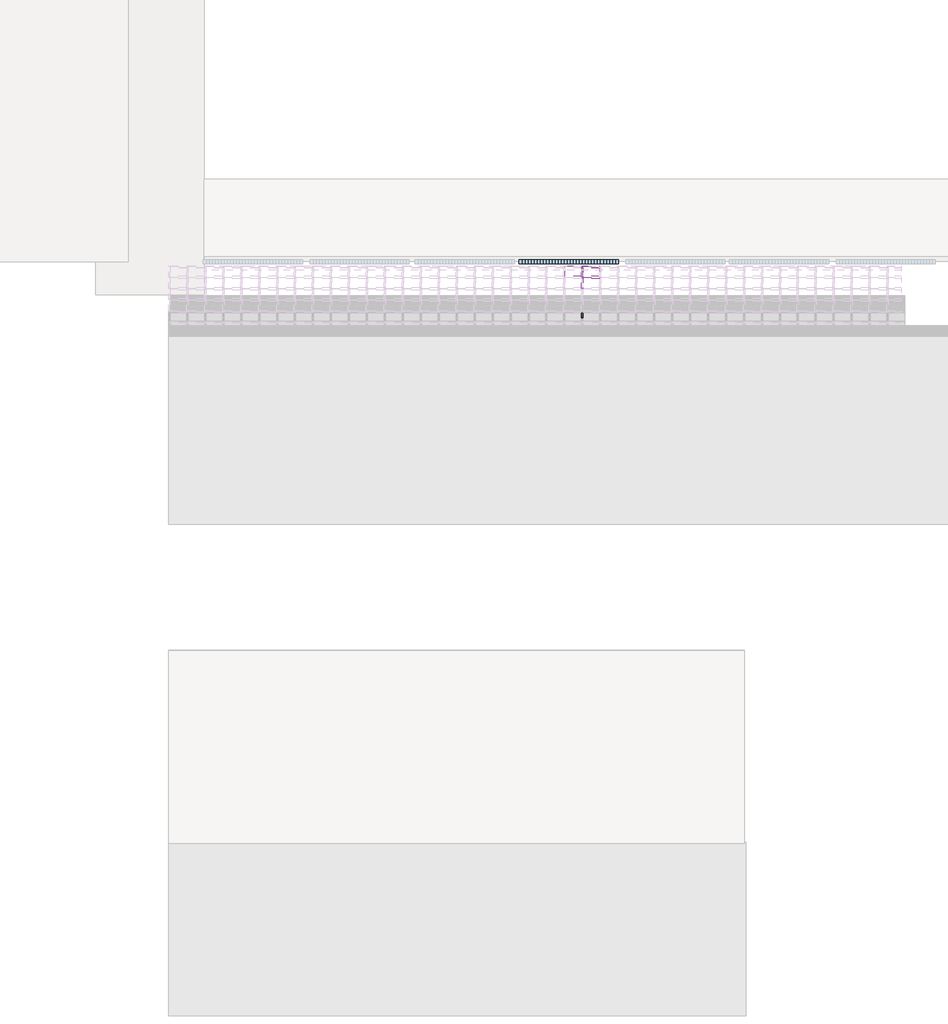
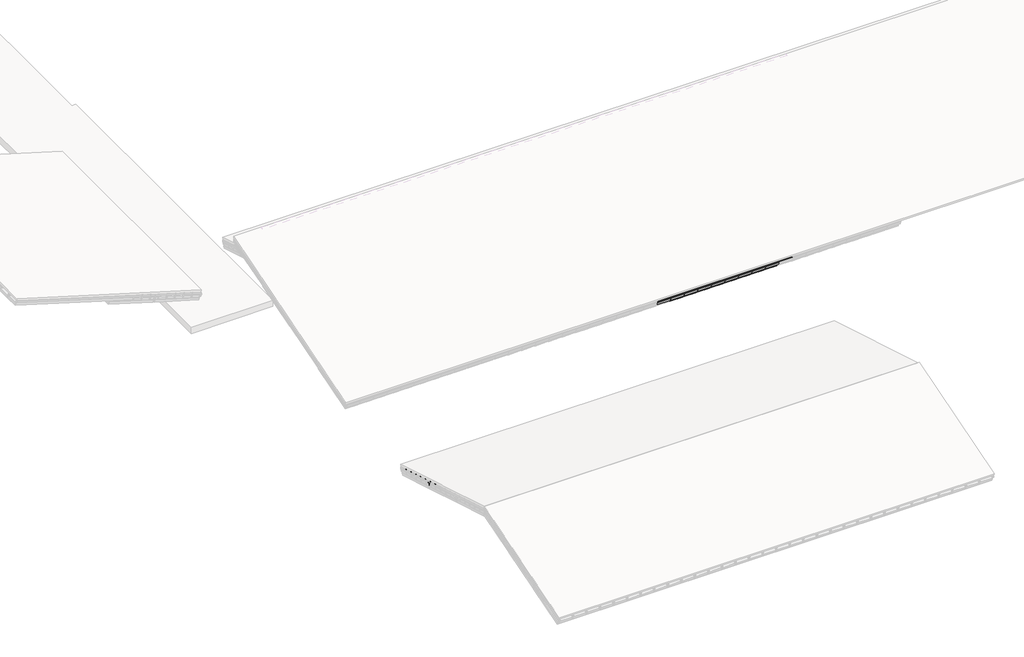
# One storey, part 23 of 57: 71 members, 48 plates, 1 window.
"""IFC4 building model written with IfcOpenShell, lengths in millimetres."""

from ifc_helpers import new_model, si_unit, origin, place, context, project, spatial, transform, mapped, element, save
from components import rectangular_mullion_4c4137b9, rectangular_mullion_59984080, rectangular_mullion_e3e5c75d, rectangular_mullion_883ae41b, rectangular_mullion_3ac3718c, rectangular_mullion_b07fcf9a, rectangular_mullion_e60b9168, rectangular_mullion_caibro_df98490b, rectangular_mullion_caibro_e4384bba, rectangular_mullion_caibro_0993a3cf, rectangular_mullion_caibro_650698a1, rectangular_mullion_caibro_3a75e286, empty_system_panel_vazio_178faf58, empty_system_panel_vazio_2c78850d, empty_system_panel_vazio_6414fa12, window_60306791, window_6c828501, window_02d14e1e

model = new_model("IFC4")

# Units and contexts
model_context = context("Model", 3, world=origin())
ifc_project = project(units=[si_unit("LENGTHUNIT", "METRE", prefix="MILLI")], contexts=[model_context])

# Site, building, storey
site = spatial("IfcSite", under=ifc_project)
building = spatial("IfcBuilding", under=site)
storey = spatial("IfcBuildingStorey", under=building, Name="Nível 2", Elevation=4100.0)

# Members
placement = place(None, origin())
rectangular_mullion_shape = rectangular_mullion_4c4137b9(model_context)
element("IfcMember", 1, ObjectType="Rectangular Mullion : Ripa", at=placement, inside=storey, context=model_context, shape_type="MappedRepresentation", body=[
    mapped(rectangular_mullion_shape, transform((15483.9400499, 15566.1284427, 5819.8877114), x_axis=(0.0, 0.9578262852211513, 0.2873478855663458), y_axis=(0.0, 0.2873478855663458, -0.9578262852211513), z_axis=(-1.0, 0.0, 0.0))),
])
rectangular_mullion_2_shape = rectangular_mullion_59984080(model_context)
element("IfcMember", 2, ObjectType="Rectangular Mullion : Ripa", at=placement, inside=storey, context=model_context, shape_type="MappedRepresentation", body=[
    mapped(rectangular_mullion_2_shape, transform((16105.9948064, 7422.2287521, 3376.7178042), x_axis=(0.0, 0.9578262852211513, 0.2873478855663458), y_axis=(0.0, 0.2873478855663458, -0.9578262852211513), z_axis=(-1.0, 0.0, 0.0))),
])
element("IfcMember", 3, ObjectType="Rectangular Mullion : Ripa", at=placement, inside=storey, context=model_context, shape_type="MappedRepresentation", body=[
    mapped(rectangular_mullion_2_shape, transform((16703.0495628, 7422.2287521, 3376.7178042), x_axis=(0.0, 0.9578262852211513, 0.2873478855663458), y_axis=(0.0, 0.2873478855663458, -0.9578262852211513), z_axis=(-1.0, 0.0, 0.0))),
])
element("IfcMember", 4, ObjectType="Rectangular Mullion : Ripa", at=placement, inside=storey, context=model_context, shape_type="MappedRepresentation", body=[
    mapped(rectangular_mullion_2_shape, transform((17300.1043192, 7422.2287521, 3376.7178042), x_axis=(0.0, 0.9578262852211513, 0.2873478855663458), y_axis=(0.0, 0.2873478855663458, -0.9578262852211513), z_axis=(-1.0, 0.0, 0.0))),
])
element("IfcMember", 5, ObjectType="Rectangular Mullion : Ripa", at=placement, inside=storey, context=model_context, shape_type="MappedRepresentation", body=[
    mapped(rectangular_mullion_2_shape, transform((17897.1590756, 7422.2287521, 3376.7178042), x_axis=(0.0, 0.9578262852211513, 0.2873478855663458), y_axis=(0.0, 0.2873478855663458, -0.9578262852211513), z_axis=(-1.0, 0.0, 0.0))),
])
element("IfcMember", 6, ObjectType="Rectangular Mullion : Ripa", at=placement, inside=storey, context=model_context, shape_type="MappedRepresentation", body=[
    mapped(rectangular_mullion_2_shape, transform((18494.2138321, 7422.2287521, 3376.7178042), x_axis=(0.0, 0.9578262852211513, 0.2873478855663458), y_axis=(0.0, 0.2873478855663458, -0.9578262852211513), z_axis=(-1.0, 0.0, 0.0))),
])
element("IfcMember", 7, ObjectType="Rectangular Mullion : Ripa", at=placement, inside=storey, context=model_context, shape_type="MappedRepresentation", body=[
    mapped(rectangular_mullion_2_shape, transform((19091.2685885, 7422.2287521, 3376.7178042), x_axis=(0.0, 0.9578262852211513, 0.2873478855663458), y_axis=(0.0, 0.2873478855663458, -0.9578262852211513), z_axis=(-1.0, 0.0, 0.0))),
])
element("IfcMember", 8, ObjectType="Rectangular Mullion : Ripa", at=placement, inside=storey, context=model_context, shape_type="MappedRepresentation", body=[
    mapped(rectangular_mullion_2_shape, transform((19688.3233449, 7422.2287521, 3376.7178042), x_axis=(0.0, 0.9578262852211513, 0.2873478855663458), y_axis=(0.0, 0.2873478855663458, -0.9578262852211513), z_axis=(-1.0, 0.0, 0.0))),
])
element("IfcMember", 9, ObjectType="Rectangular Mullion : Ripa", at=placement, inside=storey, context=model_context, shape_type="MappedRepresentation", body=[
    mapped(rectangular_mullion_2_shape, transform((20285.3781013, 7422.2287521, 3376.7178042), x_axis=(0.0, 0.9578262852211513, 0.2873478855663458), y_axis=(0.0, 0.2873478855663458, -0.9578262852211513), z_axis=(-1.0, 0.0, 0.0))),
])
element("IfcMember", 10, ObjectType="Rectangular Mullion : Ripa", at=placement, inside=storey, context=model_context, shape_type="MappedRepresentation", body=[
    mapped(rectangular_mullion_2_shape, transform((20882.4328578, 7422.2287521, 3376.7178042), x_axis=(0.0, 0.9578262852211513, 0.2873478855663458), y_axis=(0.0, 0.2873478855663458, -0.9578262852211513), z_axis=(-1.0, 0.0, 0.0))),
])
element("IfcMember", 11, ObjectType="Rectangular Mullion : Ripa", at=placement, inside=storey, context=model_context, shape_type="MappedRepresentation", body=[
    mapped(rectangular_mullion_2_shape, transform((16105.9948064, 7792.4060108, 3487.7709818), x_axis=(0.0, 0.9578262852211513, 0.2873478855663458), y_axis=(0.0, 0.2873478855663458, -0.9578262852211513), z_axis=(-1.0, 0.0, 0.0))),
])
element("IfcMember", 12, ObjectType="Rectangular Mullion : Ripa", at=placement, inside=storey, context=model_context, shape_type="MappedRepresentation", body=[
    mapped(rectangular_mullion_2_shape, transform((16703.0495628, 7792.4060108, 3487.7709818), x_axis=(0.0, 0.9578262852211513, 0.2873478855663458), y_axis=(0.0, 0.2873478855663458, -0.9578262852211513), z_axis=(-1.0, 0.0, 0.0))),
])
element("IfcMember", 13, ObjectType="Rectangular Mullion : Ripa", at=placement, inside=storey, context=model_context, shape_type="MappedRepresentation", body=[
    mapped(rectangular_mullion_2_shape, transform((17300.1043192, 7792.4060108, 3487.7709818), x_axis=(0.0, 0.9578262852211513, 0.2873478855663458), y_axis=(0.0, 0.2873478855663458, -0.9578262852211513), z_axis=(-1.0, 0.0, 0.0))),
])
element("IfcMember", 14, ObjectType="Rectangular Mullion : Ripa", at=placement, inside=storey, context=model_context, shape_type="MappedRepresentation", body=[
    mapped(rectangular_mullion_2_shape, transform((17897.1590756, 7792.4060108, 3487.7709818), x_axis=(0.0, 0.9578262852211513, 0.2873478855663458), y_axis=(0.0, 0.2873478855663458, -0.9578262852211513), z_axis=(-1.0, 0.0, 0.0))),
])
element("IfcMember", 15, ObjectType="Rectangular Mullion : Ripa", at=placement, inside=storey, context=model_context, shape_type="MappedRepresentation", body=[
    mapped(rectangular_mullion_2_shape, transform((18494.2138321, 7792.4060108, 3487.7709818), x_axis=(0.0, 0.9578262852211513, 0.2873478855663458), y_axis=(0.0, 0.2873478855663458, -0.9578262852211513), z_axis=(-1.0, 0.0, 0.0))),
])
element("IfcMember", 16, ObjectType="Rectangular Mullion : Ripa", at=placement, inside=storey, context=model_context, shape_type="MappedRepresentation", body=[
    mapped(rectangular_mullion_2_shape, transform((19091.2685885, 7792.4060108, 3487.7709818), x_axis=(0.0, 0.9578262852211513, 0.2873478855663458), y_axis=(0.0, 0.2873478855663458, -0.9578262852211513), z_axis=(-1.0, 0.0, 0.0))),
])
element("IfcMember", 17, ObjectType="Rectangular Mullion : Ripa", at=placement, inside=storey, context=model_context, shape_type="MappedRepresentation", body=[
    mapped(rectangular_mullion_2_shape, transform((19688.3233449, 7792.4060108, 3487.7709818), x_axis=(0.0, 0.9578262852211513, 0.2873478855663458), y_axis=(0.0, 0.2873478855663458, -0.9578262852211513), z_axis=(-1.0, 0.0, 0.0))),
])
element("IfcMember", 18, ObjectType="Rectangular Mullion : Ripa", at=placement, inside=storey, context=model_context, shape_type="MappedRepresentation", body=[
    mapped(rectangular_mullion_2_shape, transform((20285.3781013, 7792.4060108, 3487.7709818), x_axis=(0.0, 0.9578262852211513, 0.2873478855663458), y_axis=(0.0, 0.2873478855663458, -0.9578262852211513), z_axis=(-1.0, 0.0, 0.0))),
])
element("IfcMember", 19, ObjectType="Rectangular Mullion : Ripa", at=placement, inside=storey, context=model_context, shape_type="MappedRepresentation", body=[
    mapped(rectangular_mullion_2_shape, transform((20882.4328578, 7792.4060108, 3487.7709818), x_axis=(0.0, 0.9578262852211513, 0.2873478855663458), y_axis=(0.0, 0.2873478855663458, -0.9578262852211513), z_axis=(-1.0, 0.0, 0.0))),
])
element("IfcMember", 20, ObjectType="Rectangular Mullion : Ripa", at=placement, inside=storey, context=model_context, shape_type="MappedRepresentation", body=[
    mapped(rectangular_mullion_2_shape, transform((15508.9400499, 15195.9511841, 5708.8345338), x_axis=(0.0, 0.9578262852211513, 0.2873478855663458), y_axis=(0.0, 0.2873478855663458, -0.9578262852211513), z_axis=(-1.0, 0.0, 0.0))),
])
rectangular_mullion_3_shape = rectangular_mullion_e3e5c75d(model_context)
element("IfcMember", 21, ObjectType="Rectangular Mullion : Ripa", at=placement, inside=storey, context=model_context, shape_type="MappedRepresentation", body=[
    mapped(rectangular_mullion_3_shape, transform((16080.9948064, 7004.1601792, 3251.2972323), x_axis=(0.0, -0.9578262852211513, -0.2873478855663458), y_axis=(0.0, 0.2873478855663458, -0.9578262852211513), z_axis=(1.0, 0.0, 0.0))),
])
element("IfcMember", 22, ObjectType="Rectangular Mullion : Ripa", at=placement, inside=storey, context=model_context, shape_type="MappedRepresentation", body=[
    mapped(rectangular_mullion_3_shape, transform((16678.0495628, 7004.1601792, 3251.2972323), x_axis=(0.0, -0.9578262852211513, -0.2873478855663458), y_axis=(0.0, 0.2873478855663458, -0.9578262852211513), z_axis=(1.0, 0.0, 0.0))),
])
element("IfcMember", 23, ObjectType="Rectangular Mullion : Ripa", at=placement, inside=storey, context=model_context, shape_type="MappedRepresentation", body=[
    mapped(rectangular_mullion_3_shape, transform((17275.1043192, 7004.1601792, 3251.2972323), x_axis=(0.0, -0.9578262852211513, -0.2873478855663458), y_axis=(0.0, 0.2873478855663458, -0.9578262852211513), z_axis=(1.0, 0.0, 0.0))),
])
element("IfcMember", 24, ObjectType="Rectangular Mullion : Ripa", at=placement, inside=storey, context=model_context, shape_type="MappedRepresentation", body=[
    mapped(rectangular_mullion_3_shape, transform((17872.1590756, 7004.1601792, 3251.2972323), x_axis=(0.0, -0.9578262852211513, -0.2873478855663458), y_axis=(0.0, 0.2873478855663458, -0.9578262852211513), z_axis=(1.0, 0.0, 0.0))),
])
element("IfcMember", 25, ObjectType="Rectangular Mullion : Ripa", at=placement, inside=storey, context=model_context, shape_type="MappedRepresentation", body=[
    mapped(rectangular_mullion_3_shape, transform((18469.2138321, 7004.1601792, 3251.2972323), x_axis=(0.0, -0.9578262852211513, -0.2873478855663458), y_axis=(0.0, 0.2873478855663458, -0.9578262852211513), z_axis=(1.0, 0.0, 0.0))),
])
element("IfcMember", 26, ObjectType="Rectangular Mullion : Ripa", at=placement, inside=storey, context=model_context, shape_type="MappedRepresentation", body=[
    mapped(rectangular_mullion_3_shape, transform((19066.2685885, 7004.1601792, 3251.2972323), x_axis=(0.0, -0.9578262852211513, -0.2873478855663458), y_axis=(0.0, 0.2873478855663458, -0.9578262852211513), z_axis=(1.0, 0.0, 0.0))),
])
element("IfcMember", 27, ObjectType="Rectangular Mullion : Ripa", at=placement, inside=storey, context=model_context, shape_type="MappedRepresentation", body=[
    mapped(rectangular_mullion_3_shape, transform((19663.3233449, 7004.1601792, 3251.2972323), x_axis=(0.0, -0.9578262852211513, -0.2873478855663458), y_axis=(0.0, 0.2873478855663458, -0.9578262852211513), z_axis=(1.0, 0.0, 0.0))),
])
element("IfcMember", 28, ObjectType="Rectangular Mullion : Ripa", at=placement, inside=storey, context=model_context, shape_type="MappedRepresentation", body=[
    mapped(rectangular_mullion_3_shape, transform((20260.3781013, 7004.1601792, 3251.2972323), x_axis=(0.0, -0.9578262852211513, -0.2873478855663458), y_axis=(0.0, 0.2873478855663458, -0.9578262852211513), z_axis=(1.0, 0.0, 0.0))),
])
element("IfcMember", 29, ObjectType="Rectangular Mullion : Ripa", at=placement, inside=storey, context=model_context, shape_type="MappedRepresentation", body=[
    mapped(rectangular_mullion_3_shape, transform((20857.4328578, 7004.1601792, 3251.2972323), x_axis=(0.0, -0.9578262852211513, -0.2873478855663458), y_axis=(0.0, 0.2873478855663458, -0.9578262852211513), z_axis=(1.0, 0.0, 0.0))),
])
element("IfcMember", 30, ObjectType="Rectangular Mullion : Ripa", at=placement, inside=storey, context=model_context, shape_type="MappedRepresentation", body=[
    mapped(rectangular_mullion_3_shape, transform((21454.4876142, 7004.1601792, 3251.2972323), x_axis=(0.0, -0.9578262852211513, -0.2873478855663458), y_axis=(0.0, 0.2873478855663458, -0.9578262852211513), z_axis=(1.0, 0.0, 0.0))),
])
rectangular_mullion_4_shape = rectangular_mullion_883ae41b(model_context)
element("IfcMember", 31, ObjectType="Rectangular Mullion : Terça", at=placement, inside=storey, context=model_context, shape_type="MappedRepresentation", body=[
    mapped(rectangular_mullion_4_shape, transform((16080.9948064, 7004.1601792, 3188.6553932), x_axis=(0.0, -0.9578262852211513, -0.2873478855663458), y_axis=(0.0, 0.2873478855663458, -0.9578262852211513), z_axis=(1.0, 0.0, 0.0))),
])
element("IfcMember", 32, ObjectType="Rectangular Mullion : Terça", at=placement, inside=storey, context=model_context, shape_type="MappedRepresentation", body=[
    mapped(rectangular_mullion_4_shape, transform((16678.0495628, 7004.1601792, 3188.6553932), x_axis=(0.0, -0.9578262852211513, -0.2873478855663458), y_axis=(0.0, 0.2873478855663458, -0.9578262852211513), z_axis=(1.0, 0.0, 0.0))),
])
element("IfcMember", 33, ObjectType="Rectangular Mullion : Terça", at=placement, inside=storey, context=model_context, shape_type="MappedRepresentation", body=[
    mapped(rectangular_mullion_4_shape, transform((17275.1043192, 7004.1601792, 3188.6553932), x_axis=(0.0, -0.9578262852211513, -0.2873478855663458), y_axis=(0.0, 0.2873478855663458, -0.9578262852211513), z_axis=(1.0, 0.0, 0.0))),
])
element("IfcMember", 34, ObjectType="Rectangular Mullion : Terça", at=placement, inside=storey, context=model_context, shape_type="MappedRepresentation", body=[
    mapped(rectangular_mullion_4_shape, transform((17872.1590756, 7004.1601792, 3188.6553932), x_axis=(0.0, -0.9578262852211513, -0.2873478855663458), y_axis=(0.0, 0.2873478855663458, -0.9578262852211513), z_axis=(1.0, 0.0, 0.0))),
])
element("IfcMember", 35, ObjectType="Rectangular Mullion : Terça", at=placement, inside=storey, context=model_context, shape_type="MappedRepresentation", body=[
    mapped(rectangular_mullion_4_shape, transform((18469.2138321, 7004.1601792, 3188.6553932), x_axis=(0.0, -0.9578262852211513, -0.2873478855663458), y_axis=(0.0, 0.2873478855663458, -0.9578262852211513), z_axis=(1.0, 0.0, 0.0))),
])
element("IfcMember", 36, ObjectType="Rectangular Mullion : Terça", at=placement, inside=storey, context=model_context, shape_type="MappedRepresentation", body=[
    mapped(rectangular_mullion_4_shape, transform((19066.2685885, 7004.1601792, 3188.6553932), x_axis=(0.0, -0.9578262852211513, -0.2873478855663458), y_axis=(0.0, 0.2873478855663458, -0.9578262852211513), z_axis=(1.0, 0.0, 0.0))),
])
element("IfcMember", 37, ObjectType="Rectangular Mullion : Terça", at=placement, inside=storey, context=model_context, shape_type="MappedRepresentation", body=[
    mapped(rectangular_mullion_4_shape, transform((19663.3233449, 7004.1601792, 3188.6553932), x_axis=(0.0, -0.9578262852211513, -0.2873478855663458), y_axis=(0.0, 0.2873478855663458, -0.9578262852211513), z_axis=(1.0, 0.0, 0.0))),
])
element("IfcMember", 38, ObjectType="Rectangular Mullion : Terça", at=placement, inside=storey, context=model_context, shape_type="MappedRepresentation", body=[
    mapped(rectangular_mullion_4_shape, transform((20260.3781013, 7004.1601792, 3188.6553932), x_axis=(0.0, -0.9578262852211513, -0.2873478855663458), y_axis=(0.0, 0.2873478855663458, -0.9578262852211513), z_axis=(1.0, 0.0, 0.0))),
])
element("IfcMember", 39, ObjectType="Rectangular Mullion : Terça", at=placement, inside=storey, context=model_context, shape_type="MappedRepresentation", body=[
    mapped(rectangular_mullion_4_shape, transform((20857.4328578, 7004.1601792, 3188.6553932), x_axis=(0.0, -0.9578262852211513, -0.2873478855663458), y_axis=(0.0, 0.2873478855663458, -0.9578262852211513), z_axis=(1.0, 0.0, 0.0))),
])
rectangular_mullion_5_shape = rectangular_mullion_3ac3718c(model_context)
element("IfcMember", 40, ObjectType="Rectangular Mullion : Terça", at=placement, inside=storey, context=model_context, shape_type="MappedRepresentation", body=[
    mapped(rectangular_mullion_5_shape, transform((15483.9400499, 15566.1284427, 5757.2458723), x_axis=(0.0, 0.9578262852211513, 0.2873478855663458), y_axis=(0.0, 0.2873478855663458, -0.9578262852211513), z_axis=(-1.0, 0.0, 0.0))),
])
rectangular_mullion_6_shape = rectangular_mullion_b07fcf9a(model_context)
element("IfcMember", 41, ObjectType="Rectangular Mullion : Terça", at=placement, inside=storey, context=model_context, shape_type="MappedRepresentation", body=[
    mapped(rectangular_mullion_6_shape, transform((20876.5285525, 613.2407465, 3444.0969596), x_axis=(0.0, -0.9578262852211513, 0.2873478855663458), y_axis=(0.0, -0.2873478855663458, -0.9578262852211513), z_axis=(1.0, 0.0, 0.0))),
])
rectangular_mullion_7_shape = rectangular_mullion_e60b9168(model_context)
element("IfcMember", 42, ObjectType="Rectangular Mullion : Ripa", at=placement, inside=storey, context=model_context, shape_type="MappedRepresentation", body=[
    mapped(rectangular_mullion_7_shape, transform((20876.5285525, 2326.7195951, 3055.3369832), x_axis=(0.0, -0.9578262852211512, 0.2873478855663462), y_axis=(0.0, -0.2873478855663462, -0.9578262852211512), z_axis=(1.0, 0.0, 0.0))),
])
element("IfcMember", 43, ObjectType="Rectangular Mullion : Ripa", at=placement, inside=storey, context=model_context, shape_type="MappedRepresentation", body=[
    mapped(rectangular_mullion_7_shape, transform((20876.5285525, 1954.7564247, 3166.9259343), x_axis=(0.0, -0.9578262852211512, 0.2873478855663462), y_axis=(0.0, -0.2873478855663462, -0.9578262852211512), z_axis=(1.0, 0.0, 0.0))),
])
element("IfcMember", 44, ObjectType="Rectangular Mullion : Ripa", at=placement, inside=storey, context=model_context, shape_type="MappedRepresentation", body=[
    mapped(rectangular_mullion_7_shape, transform((20876.5285525, 1582.7932543, 3278.5148854), x_axis=(0.0, -0.9578262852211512, 0.2873478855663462), y_axis=(0.0, -0.2873478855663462, -0.9578262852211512), z_axis=(1.0, 0.0, 0.0))),
])
element("IfcMember", 45, ObjectType="Rectangular Mullion : Ripa", at=placement, inside=storey, context=model_context, shape_type="MappedRepresentation", body=[
    mapped(rectangular_mullion_7_shape, transform((20876.5285525, 1210.8300839, 3390.1038365), x_axis=(0.0, -0.9578262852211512, 0.2873478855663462), y_axis=(0.0, -0.2873478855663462, -0.9578262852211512), z_axis=(1.0, 0.0, 0.0))),
])
element("IfcMember", 46, ObjectType="Rectangular Mullion : Ripa", at=placement, inside=storey, context=model_context, shape_type="MappedRepresentation", body=[
    mapped(rectangular_mullion_7_shape, transform((20876.5285525, 838.8669134, 3501.6927877), x_axis=(0.0, -0.9578262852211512, 0.2873478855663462), y_axis=(0.0, -0.2873478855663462, -0.9578262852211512), z_axis=(1.0, 0.0, 0.0))),
])
element("IfcMember", 47, ObjectType="Rectangular Mullion : Ripa", at=placement, inside=storey, context=model_context, shape_type="MappedRepresentation", body=[
    mapped(rectangular_mullion_7_shape, transform((20876.5285525, 466.903743, 3613.2817388), x_axis=(0.0, -0.9578262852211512, 0.2873478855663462), y_axis=(0.0, -0.2873478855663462, -0.9578262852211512), z_axis=(1.0, 0.0, 0.0))),
])
element("IfcMember", 48, ObjectType="Rectangular Mullion : Ripa", at=placement, inside=storey, context=model_context, shape_type="MappedRepresentation", body=[
    mapped(rectangular_mullion_7_shape, transform((20876.5285525, 94.9405726, 3724.8706899), x_axis=(0.0, -0.9578262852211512, 0.2873478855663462), y_axis=(0.0, -0.2873478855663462, -0.9578262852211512), z_axis=(1.0, 0.0, 0.0))),
])
rectangular_mullion_caibro_shape = rectangular_mullion_caibro_df98490b(model_context)
element("IfcMember", 49, ObjectType="Rectangular Mullion : Caibro", at=placement, inside=storey, context=model_context, shape_type="MappedRepresentation", body=[
    mapped(rectangular_mullion_caibro_shape, transform((15483.9400499, 15518.2371285, 5805.5203171), x_axis=(1.0, 0.0, 0.0), y_axis=(0.0, 0.28734788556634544, -0.9578262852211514), z_axis=(0.0, 0.9578262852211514, 0.28734788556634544))),
])
rectangular_mullion_caibro_2_shape = rectangular_mullion_caibro_e4384bba(model_context)
element("IfcMember", 50, ObjectType="Rectangular Mullion : Caibro", at=placement, inside=storey, context=model_context, shape_type="MappedRepresentation", body=[
    mapped(rectangular_mullion_caibro_2_shape, transform((16080.9948064, 7422.2287521, 3376.7178042), x_axis=(1.0, 0.0, 0.0), y_axis=(0.0, 0.2873478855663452, -0.9578262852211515), z_axis=(0.0, 0.9578262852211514, 0.28734788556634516))),
])
element("IfcMember", 51, ObjectType="Rectangular Mullion : Caibro", at=placement, inside=storey, context=model_context, shape_type="MappedRepresentation", body=[
    mapped(rectangular_mullion_caibro_2_shape, transform((16678.0495628, 7422.2287521, 3376.7178042), x_axis=(1.0, 0.0, 0.0), y_axis=(0.0, 0.2873478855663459, -0.9578262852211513), z_axis=(0.0, 0.9578262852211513, 0.2873478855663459))),
])
element("IfcMember", 52, ObjectType="Rectangular Mullion : Caibro", at=placement, inside=storey, context=model_context, shape_type="MappedRepresentation", body=[
    mapped(rectangular_mullion_caibro_2_shape, transform((17275.1043192, 7422.2287521, 3376.7178042), x_axis=(1.0, 0.0, 0.0), y_axis=(0.0, 0.2873478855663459, -0.9578262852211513), z_axis=(0.0, 0.9578262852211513, 0.2873478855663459))),
])
element("IfcMember", 53, ObjectType="Rectangular Mullion : Caibro", at=placement, inside=storey, context=model_context, shape_type="MappedRepresentation", body=[
    mapped(rectangular_mullion_caibro_2_shape, transform((17872.1590756, 7422.2287521, 3376.7178042), x_axis=(1.0, 0.0, 0.0), y_axis=(0.0, 0.2873478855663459, -0.9578262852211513), z_axis=(0.0, 0.9578262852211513, 0.2873478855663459))),
])
element("IfcMember", 54, ObjectType="Rectangular Mullion : Caibro", at=placement, inside=storey, context=model_context, shape_type="MappedRepresentation", body=[
    mapped(rectangular_mullion_caibro_2_shape, transform((18469.2138321, 7422.2287521, 3376.7178042), x_axis=(1.0, 0.0, 0.0), y_axis=(0.0, 0.2873478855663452, -0.9578262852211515), z_axis=(0.0, 0.9578262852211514, 0.28734788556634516))),
])
element("IfcMember", 55, ObjectType="Rectangular Mullion : Caibro", at=placement, inside=storey, context=model_context, shape_type="MappedRepresentation", body=[
    mapped(rectangular_mullion_caibro_2_shape, transform((19066.2685885, 7422.2287521, 3376.7178042), x_axis=(1.0, 0.0, 0.0), y_axis=(0.0, 0.2873478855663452, -0.9578262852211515), z_axis=(0.0, 0.9578262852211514, 0.28734788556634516))),
])
element("IfcMember", 56, ObjectType="Rectangular Mullion : Caibro", at=placement, inside=storey, context=model_context, shape_type="MappedRepresentation", body=[
    mapped(rectangular_mullion_caibro_2_shape, transform((19663.3233449, 7422.2287521, 3376.7178042), x_axis=(1.0, 0.0, 0.0), y_axis=(0.0, 0.2873478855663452, -0.9578262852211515), z_axis=(0.0, 0.9578262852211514, 0.28734788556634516))),
])
element("IfcMember", 57, ObjectType="Rectangular Mullion : Caibro", at=placement, inside=storey, context=model_context, shape_type="MappedRepresentation", body=[
    mapped(rectangular_mullion_caibro_2_shape, transform((20260.3781013, 7422.2287521, 3376.7178042), x_axis=(1.0, 0.0, 0.0), y_axis=(0.0, 0.2873478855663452, -0.9578262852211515), z_axis=(0.0, 0.9578262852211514, 0.28734788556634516))),
])
element("IfcMember", 58, ObjectType="Rectangular Mullion : Caibro", at=placement, inside=storey, context=model_context, shape_type="MappedRepresentation", body=[
    mapped(rectangular_mullion_caibro_2_shape, transform((20857.4328578, 7422.2287521, 3376.7178042), x_axis=(1.0, 0.0, 0.0), y_axis=(0.0, 0.2873478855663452, -0.9578262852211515), z_axis=(0.0, 0.9578262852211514, 0.28734788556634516))),
])
element("IfcMember", 59, ObjectType="Rectangular Mullion : Caibro", at=placement, inside=storey, context=model_context, shape_type="MappedRepresentation", body=[
    mapped(rectangular_mullion_caibro_2_shape, transform((15483.9400499, 15195.9511841, 5708.8345338), x_axis=(1.0, 0.0, 0.0), y_axis=(0.0, 0.28734788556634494, -0.9578262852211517), z_axis=(0.0, 0.9578262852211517, 0.28734788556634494))),
])
element("IfcMember", 60, ObjectType="Rectangular Mullion : Caibro", at=placement, inside=storey, context=model_context, shape_type="MappedRepresentation", body=[
    mapped(rectangular_mullion_caibro_2_shape, transform((16080.9948064, 7792.4060108, 3487.7709818), x_axis=(1.0, 0.0, 0.0), y_axis=(0.0, 0.2873478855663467, -0.9578262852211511), z_axis=(0.0, 0.9578262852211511, 0.2873478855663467))),
])
element("IfcMember", 61, ObjectType="Rectangular Mullion : Caibro", at=placement, inside=storey, context=model_context, shape_type="MappedRepresentation", body=[
    mapped(rectangular_mullion_caibro_2_shape, transform((16678.0495628, 7792.4060108, 3487.7709818), x_axis=(1.0, 0.0, 0.0), y_axis=(0.0, 0.2873478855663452, -0.9578262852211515), z_axis=(0.0, 0.9578262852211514, 0.28734788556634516))),
])
element("IfcMember", 62, ObjectType="Rectangular Mullion : Caibro", at=placement, inside=storey, context=model_context, shape_type="MappedRepresentation", body=[
    mapped(rectangular_mullion_caibro_2_shape, transform((17275.1043192, 7792.4060108, 3487.7709818), x_axis=(1.0, 0.0, 0.0), y_axis=(0.0, 0.2873478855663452, -0.9578262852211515), z_axis=(0.0, 0.9578262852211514, 0.28734788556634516))),
])
element("IfcMember", 63, ObjectType="Rectangular Mullion : Caibro", at=placement, inside=storey, context=model_context, shape_type="MappedRepresentation", body=[
    mapped(rectangular_mullion_caibro_2_shape, transform((17872.1590756, 7792.4060108, 3487.7709818), x_axis=(1.0, 0.0, 0.0), y_axis=(0.0, 0.2873478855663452, -0.9578262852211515), z_axis=(0.0, 0.9578262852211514, 0.28734788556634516))),
])
element("IfcMember", 64, ObjectType="Rectangular Mullion : Caibro", at=placement, inside=storey, context=model_context, shape_type="MappedRepresentation", body=[
    mapped(rectangular_mullion_caibro_2_shape, transform((18469.2138321, 7792.4060108, 3487.7709818), x_axis=(1.0, 0.0, 0.0), y_axis=(0.0, 0.2873478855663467, -0.9578262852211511), z_axis=(0.0, 0.9578262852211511, 0.2873478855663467))),
])
element("IfcMember", 65, ObjectType="Rectangular Mullion : Caibro", at=placement, inside=storey, context=model_context, shape_type="MappedRepresentation", body=[
    mapped(rectangular_mullion_caibro_2_shape, transform((19066.2685885, 7792.4060108, 3487.7709818), x_axis=(1.0, 0.0, 0.0), y_axis=(0.0, 0.2873478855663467, -0.9578262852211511), z_axis=(0.0, 0.9578262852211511, 0.2873478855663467))),
])
element("IfcMember", 66, ObjectType="Rectangular Mullion : Caibro", at=placement, inside=storey, context=model_context, shape_type="MappedRepresentation", body=[
    mapped(rectangular_mullion_caibro_2_shape, transform((19663.3233449, 7792.4060108, 3487.7709818), x_axis=(1.0, 0.0, 0.0), y_axis=(0.0, 0.2873478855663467, -0.9578262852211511), z_axis=(0.0, 0.9578262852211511, 0.2873478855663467))),
])
element("IfcMember", 67, ObjectType="Rectangular Mullion : Caibro", at=placement, inside=storey, context=model_context, shape_type="MappedRepresentation", body=[
    mapped(rectangular_mullion_caibro_2_shape, transform((20260.3781013, 7792.4060108, 3487.7709818), x_axis=(1.0, 0.0, 0.0), y_axis=(0.0, 0.2873478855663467, -0.9578262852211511), z_axis=(0.0, 0.9578262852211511, 0.2873478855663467))),
])
element("IfcMember", 68, ObjectType="Rectangular Mullion : Caibro", at=placement, inside=storey, context=model_context, shape_type="MappedRepresentation", body=[
    mapped(rectangular_mullion_caibro_2_shape, transform((20857.4328578, 7792.4060108, 3487.7709818), x_axis=(1.0, 0.0, 0.0), y_axis=(0.0, 0.2873478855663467, -0.9578262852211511), z_axis=(0.0, 0.9578262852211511, 0.2873478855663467))),
])
rectangular_mullion_caibro_3_shape = rectangular_mullion_caibro_0993a3cf(model_context)
element("IfcMember", 69, ObjectType="Rectangular Mullion : Caibro", at=placement, inside=storey, context=model_context, shape_type="MappedRepresentation", body=[
    mapped(rectangular_mullion_caibro_3_shape, transform((15483.9400499, 15508.6588656, 5740.0049992), x_axis=(1.0, 0.0, 0.0), y_axis=(0.0, 0.28734788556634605, -0.9578262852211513), z_axis=(0.0, 0.9578262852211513, 0.28734788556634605))),
])
rectangular_mullion_caibro_4_shape = rectangular_mullion_caibro_650698a1(model_context)
element("IfcMember", 70, ObjectType="Rectangular Mullion : Caibro", at=placement, inside=storey, context=model_context, shape_type="MappedRepresentation", body=[
    mapped(rectangular_mullion_caibro_4_shape, transform((15470.8470878, 15772.0058221, 4410.7541277), x_axis=(-1.0, 0.0, 0.0), y_axis=(0.0, -0.28734788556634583, -0.9578262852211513), z_axis=(0.0, -0.9578262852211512, 0.2873478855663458))),
])
rectangular_mullion_caibro_5_shape = rectangular_mullion_caibro_3a75e286(model_context)
element("IfcMember", 71, ObjectType="Rectangular Mullion : Caibro", at=placement, inside=storey, context=model_context, shape_type="MappedRepresentation", body=[
    mapped(rectangular_mullion_caibro_5_shape, transform((20876.5285525, 2746.5740798, 2929.3806378), x_axis=(1.0, 0.0, 0.0), y_axis=(0.0, -0.2873478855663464, -0.9578262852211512), z_axis=(0.0, 0.9578262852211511, -0.28734788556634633))),
])

# Plates
empty_system_panel_vazio_shape = empty_system_panel_vazio_178faf58(model_context)
element("IfcPlate", 72, ObjectType="Empty System Panel : Vazio", at=placement, inside=storey, context=model_context, shape_type="MappedRepresentation", body=[
    mapped(empty_system_panel_vazio_shape, transform((16379.5221846, 7052.0514934, 3265.6646266), x_axis=(1.0, 0.0, 0.0), y_axis=(0.0, 0.2873478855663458, -0.9578262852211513), z_axis=(0.0, 0.9578262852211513, 0.2873478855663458))),
])
element("IfcPlate", 73, ObjectType="Empty System Panel : Vazio", at=placement, inside=storey, context=model_context, shape_type="MappedRepresentation", body=[
    mapped(empty_system_panel_vazio_shape, transform((16976.576941, 7052.0514934, 3265.6646266), x_axis=(1.0, 0.0, 0.0), y_axis=(0.0, 0.2873478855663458, -0.9578262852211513), z_axis=(0.0, 0.9578262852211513, 0.2873478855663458))),
])
element("IfcPlate", 74, ObjectType="Empty System Panel : Vazio", at=placement, inside=storey, context=model_context, shape_type="MappedRepresentation", body=[
    mapped(empty_system_panel_vazio_shape, transform((17573.6316974, 7052.0514934, 3265.6646266), x_axis=(1.0, 0.0, 0.0), y_axis=(0.0, 0.2873478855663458, -0.9578262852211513), z_axis=(0.0, 0.9578262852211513, 0.2873478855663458))),
])
element("IfcPlate", 75, ObjectType="Empty System Panel : Vazio", at=placement, inside=storey, context=model_context, shape_type="MappedRepresentation", body=[
    mapped(empty_system_panel_vazio_shape, transform((18170.6864538, 7052.0514934, 3265.6646266), x_axis=(1.0, 0.0, 0.0), y_axis=(0.0, 0.2873478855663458, -0.9578262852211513), z_axis=(0.0, 0.9578262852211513, 0.2873478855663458))),
])
element("IfcPlate", 76, ObjectType="Empty System Panel : Vazio", at=placement, inside=storey, context=model_context, shape_type="MappedRepresentation", body=[
    mapped(empty_system_panel_vazio_shape, transform((18767.7412103, 7052.0514934, 3265.6646266), x_axis=(1.0, 0.0, 0.0), y_axis=(0.0, 0.2873478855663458, -0.9578262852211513), z_axis=(0.0, 0.9578262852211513, 0.2873478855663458))),
])
element("IfcPlate", 77, ObjectType="Empty System Panel : Vazio", at=placement, inside=storey, context=model_context, shape_type="MappedRepresentation", body=[
    mapped(empty_system_panel_vazio_shape, transform((19364.7959667, 7052.0514934, 3265.6646266), x_axis=(1.0, 0.0, 0.0), y_axis=(0.0, 0.2873478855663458, -0.9578262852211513), z_axis=(0.0, 0.9578262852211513, 0.2873478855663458))),
])
element("IfcPlate", 78, ObjectType="Empty System Panel : Vazio", at=placement, inside=storey, context=model_context, shape_type="MappedRepresentation", body=[
    mapped(empty_system_panel_vazio_shape, transform((19961.8507231, 7052.0514934, 3265.6646266), x_axis=(1.0, 0.0, 0.0), y_axis=(0.0, 0.2873478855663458, -0.9578262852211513), z_axis=(0.0, 0.9578262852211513, 0.2873478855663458))),
])
element("IfcPlate", 79, ObjectType="Empty System Panel : Vazio", at=placement, inside=storey, context=model_context, shape_type="MappedRepresentation", body=[
    mapped(empty_system_panel_vazio_shape, transform((20558.9054795, 7052.0514934, 3265.6646266), x_axis=(1.0, 0.0, 0.0), y_axis=(0.0, 0.2873478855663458, -0.9578262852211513), z_axis=(0.0, 0.9578262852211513, 0.2873478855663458))),
])
element("IfcPlate", 80, ObjectType="Empty System Panel : Vazio", at=placement, inside=storey, context=model_context, shape_type="MappedRepresentation", body=[
    mapped(empty_system_panel_vazio_shape, transform((21155.960236, 7052.0514934, 3265.6646266), x_axis=(1.0, 0.0, 0.0), y_axis=(0.0, 0.2873478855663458, -0.9578262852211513), z_axis=(0.0, 0.9578262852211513, 0.2873478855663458))),
])
element("IfcPlate", 81, ObjectType="Empty System Panel : Vazio", at=placement, inside=storey, context=model_context, shape_type="MappedRepresentation", body=[
    mapped(empty_system_panel_vazio_shape, transform((21753.0149924, 7052.0514934, 3265.6646266), x_axis=(1.0, 0.0, 0.0), y_axis=(0.0, 0.2873478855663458, -0.9578262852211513), z_axis=(0.0, 0.9578262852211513, 0.2873478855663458))),
])
element("IfcPlate", 82, ObjectType="Empty System Panel : Vazio", at=placement, inside=storey, context=model_context, shape_type="MappedRepresentation", body=[
    mapped(empty_system_panel_vazio_shape, transform((16379.5221846, 7422.2287521, 3376.7178042), x_axis=(1.0, 0.0, 0.0), y_axis=(0.0, 0.2873478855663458, -0.9578262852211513), z_axis=(0.0, 0.9578262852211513, 0.2873478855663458))),
])
element("IfcPlate", 83, ObjectType="Empty System Panel : Vazio", at=placement, inside=storey, context=model_context, shape_type="MappedRepresentation", body=[
    mapped(empty_system_panel_vazio_shape, transform((16976.576941, 7422.2287521, 3376.7178042), x_axis=(1.0, 0.0, 0.0), y_axis=(0.0, 0.2873478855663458, -0.9578262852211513), z_axis=(0.0, 0.9578262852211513, 0.2873478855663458))),
])
element("IfcPlate", 84, ObjectType="Empty System Panel : Vazio", at=placement, inside=storey, context=model_context, shape_type="MappedRepresentation", body=[
    mapped(empty_system_panel_vazio_shape, transform((17573.6316974, 7422.2287521, 3376.7178042), x_axis=(1.0, 0.0, 0.0), y_axis=(0.0, 0.2873478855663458, -0.9578262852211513), z_axis=(0.0, 0.9578262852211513, 0.2873478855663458))),
])
element("IfcPlate", 85, ObjectType="Empty System Panel : Vazio", at=placement, inside=storey, context=model_context, shape_type="MappedRepresentation", body=[
    mapped(empty_system_panel_vazio_shape, transform((18170.6864538, 7422.2287521, 3376.7178042), x_axis=(1.0, 0.0, 0.0), y_axis=(0.0, 0.2873478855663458, -0.9578262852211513), z_axis=(0.0, 0.9578262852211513, 0.2873478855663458))),
])
element("IfcPlate", 86, ObjectType="Empty System Panel : Vazio", at=placement, inside=storey, context=model_context, shape_type="MappedRepresentation", body=[
    mapped(empty_system_panel_vazio_shape, transform((18767.7412103, 7422.2287521, 3376.7178042), x_axis=(1.0, 0.0, 0.0), y_axis=(0.0, 0.2873478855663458, -0.9578262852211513), z_axis=(0.0, 0.9578262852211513, 0.2873478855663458))),
])
element("IfcPlate", 87, ObjectType="Empty System Panel : Vazio", at=placement, inside=storey, context=model_context, shape_type="MappedRepresentation", body=[
    mapped(empty_system_panel_vazio_shape, transform((19364.7959667, 7422.2287521, 3376.7178042), x_axis=(1.0, 0.0, 0.0), y_axis=(0.0, 0.2873478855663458, -0.9578262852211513), z_axis=(0.0, 0.9578262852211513, 0.2873478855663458))),
])
element("IfcPlate", 88, ObjectType="Empty System Panel : Vazio", at=placement, inside=storey, context=model_context, shape_type="MappedRepresentation", body=[
    mapped(empty_system_panel_vazio_shape, transform((19961.8507231, 7422.2287521, 3376.7178042), x_axis=(1.0, 0.0, 0.0), y_axis=(0.0, 0.2873478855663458, -0.9578262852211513), z_axis=(0.0, 0.9578262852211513, 0.2873478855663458))),
])
element("IfcPlate", 89, ObjectType="Empty System Panel : Vazio", at=placement, inside=storey, context=model_context, shape_type="MappedRepresentation", body=[
    mapped(empty_system_panel_vazio_shape, transform((20558.9054795, 7422.2287521, 3376.7178042), x_axis=(1.0, 0.0, 0.0), y_axis=(0.0, 0.2873478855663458, -0.9578262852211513), z_axis=(0.0, 0.9578262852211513, 0.2873478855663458))),
])
element("IfcPlate", 90, ObjectType="Empty System Panel : Vazio", at=placement, inside=storey, context=model_context, shape_type="MappedRepresentation", body=[
    mapped(empty_system_panel_vazio_shape, transform((21155.960236, 7422.2287521, 3376.7178042), x_axis=(1.0, 0.0, 0.0), y_axis=(0.0, 0.2873478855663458, -0.9578262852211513), z_axis=(0.0, 0.9578262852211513, 0.2873478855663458))),
])
element("IfcPlate", 91, ObjectType="Empty System Panel : Vazio", at=placement, inside=storey, context=model_context, shape_type="MappedRepresentation", body=[
    mapped(empty_system_panel_vazio_shape, transform((21753.0149924, 7422.2287521, 3376.7178042), x_axis=(1.0, 0.0, 0.0), y_axis=(0.0, 0.2873478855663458, -0.9578262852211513), z_axis=(0.0, 0.9578262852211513, 0.2873478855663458))),
])
element("IfcPlate", 92, ObjectType="Empty System Panel : Vazio", at=placement, inside=storey, context=model_context, shape_type="MappedRepresentation", body=[
    mapped(empty_system_panel_vazio_shape, transform((16379.5221846, 7792.4060108, 3487.7709818), x_axis=(1.0, 0.0, 0.0), y_axis=(0.0, 0.2873478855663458, -0.9578262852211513), z_axis=(0.0, 0.9578262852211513, 0.2873478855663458))),
])
element("IfcPlate", 93, ObjectType="Empty System Panel : Vazio", at=placement, inside=storey, context=model_context, shape_type="MappedRepresentation", body=[
    mapped(empty_system_panel_vazio_shape, transform((16976.576941, 7792.4060108, 3487.7709818), x_axis=(1.0, 0.0, 0.0), y_axis=(0.0, 0.2873478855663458, -0.9578262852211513), z_axis=(0.0, 0.9578262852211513, 0.2873478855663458))),
])
element("IfcPlate", 94, ObjectType="Empty System Panel : Vazio", at=placement, inside=storey, context=model_context, shape_type="MappedRepresentation", body=[
    mapped(empty_system_panel_vazio_shape, transform((17573.6316974, 7792.4060108, 3487.7709818), x_axis=(1.0, 0.0, 0.0), y_axis=(0.0, 0.2873478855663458, -0.9578262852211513), z_axis=(0.0, 0.9578262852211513, 0.2873478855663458))),
])
element("IfcPlate", 95, ObjectType="Empty System Panel : Vazio", at=placement, inside=storey, context=model_context, shape_type="MappedRepresentation", body=[
    mapped(empty_system_panel_vazio_shape, transform((18170.6864538, 7792.4060108, 3487.7709818), x_axis=(1.0, 0.0, 0.0), y_axis=(0.0, 0.2873478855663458, -0.9578262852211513), z_axis=(0.0, 0.9578262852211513, 0.2873478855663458))),
])
element("IfcPlate", 96, ObjectType="Empty System Panel : Vazio", at=placement, inside=storey, context=model_context, shape_type="MappedRepresentation", body=[
    mapped(empty_system_panel_vazio_shape, transform((18767.7412103, 7792.4060108, 3487.7709818), x_axis=(1.0, 0.0, 0.0), y_axis=(0.0, 0.2873478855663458, -0.9578262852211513), z_axis=(0.0, 0.9578262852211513, 0.2873478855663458))),
])
element("IfcPlate", 97, ObjectType="Empty System Panel : Vazio", at=placement, inside=storey, context=model_context, shape_type="MappedRepresentation", body=[
    mapped(empty_system_panel_vazio_shape, transform((19364.7959667, 7792.4060108, 3487.7709818), x_axis=(1.0, 0.0, 0.0), y_axis=(0.0, 0.2873478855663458, -0.9578262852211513), z_axis=(0.0, 0.9578262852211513, 0.2873478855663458))),
])
element("IfcPlate", 98, ObjectType="Empty System Panel : Vazio", at=placement, inside=storey, context=model_context, shape_type="MappedRepresentation", body=[
    mapped(empty_system_panel_vazio_shape, transform((19961.8507231, 7792.4060108, 3487.7709818), x_axis=(1.0, 0.0, 0.0), y_axis=(0.0, 0.2873478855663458, -0.9578262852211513), z_axis=(0.0, 0.9578262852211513, 0.2873478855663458))),
])
element("IfcPlate", 99, ObjectType="Empty System Panel : Vazio", at=placement, inside=storey, context=model_context, shape_type="MappedRepresentation", body=[
    mapped(empty_system_panel_vazio_shape, transform((20558.9054795, 7792.4060108, 3487.7709818), x_axis=(1.0, 0.0, 0.0), y_axis=(0.0, 0.2873478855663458, -0.9578262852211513), z_axis=(0.0, 0.9578262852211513, 0.2873478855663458))),
])
element("IfcPlate", 100, ObjectType="Empty System Panel : Vazio", at=placement, inside=storey, context=model_context, shape_type="MappedRepresentation", body=[
    mapped(empty_system_panel_vazio_shape, transform((21155.960236, 7792.4060108, 3487.7709818), x_axis=(1.0, 0.0, 0.0), y_axis=(0.0, 0.2873478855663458, -0.9578262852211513), z_axis=(0.0, 0.9578262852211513, 0.2873478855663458))),
])
element("IfcPlate", 101, ObjectType="Empty System Panel : Vazio", at=placement, inside=storey, context=model_context, shape_type="MappedRepresentation", body=[
    mapped(empty_system_panel_vazio_shape, transform((21753.0149924, 7792.4060108, 3487.7709818), x_axis=(1.0, 0.0, 0.0), y_axis=(0.0, 0.2873478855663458, -0.9578262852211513), z_axis=(0.0, 0.9578262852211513, 0.2873478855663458))),
])
element("IfcPlate", 102, ObjectType="Empty System Panel : Vazio", at=placement, inside=storey, context=model_context, shape_type="MappedRepresentation", body=[
    mapped(empty_system_panel_vazio_shape, transform((15185.4126717, 15195.9511841, 5708.8345338), x_axis=(1.0, 0.0, 0.0), y_axis=(0.0, 0.2873478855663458, -0.9578262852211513), z_axis=(0.0, 0.9578262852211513, 0.2873478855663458))),
])
element("IfcPlate", 103, ObjectType="Empty System Panel : Vazio", at=placement, inside=storey, context=model_context, shape_type="MappedRepresentation", body=[
    mapped(empty_system_panel_vazio_shape, transform((15782.4674281, 15195.9511841, 5708.8345338), x_axis=(1.0, 0.0, 0.0), y_axis=(0.0, 0.2873478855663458, -0.9578262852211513), z_axis=(0.0, 0.9578262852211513, 0.2873478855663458))),
])
empty_system_panel_vazio_2_shape = empty_system_panel_vazio_2c78850d(model_context)
element("IfcPlate", 104, ObjectType="Empty System Panel : Vazio", at=placement, inside=storey, context=model_context, shape_type="MappedRepresentation", body=[
    mapped(empty_system_panel_vazio_2_shape, transform((16379.5221846, 7061.6297563, 3205.8962664), x_axis=(1.0, 0.0, 0.0), y_axis=(0.0, 0.2873478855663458, -0.9578262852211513), z_axis=(0.0, 0.9578262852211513, 0.2873478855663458))),
])
element("IfcPlate", 105, ObjectType="Empty System Panel : Vazio", at=placement, inside=storey, context=model_context, shape_type="MappedRepresentation", body=[
    mapped(empty_system_panel_vazio_2_shape, transform((16976.576941, 7061.6297563, 3205.8962664), x_axis=(1.0, 0.0, 0.0), y_axis=(0.0, 0.2873478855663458, -0.9578262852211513), z_axis=(0.0, 0.9578262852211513, 0.2873478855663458))),
])
element("IfcPlate", 106, ObjectType="Empty System Panel : Vazio", at=placement, inside=storey, context=model_context, shape_type="MappedRepresentation", body=[
    mapped(empty_system_panel_vazio_2_shape, transform((17573.6316974, 7061.6297563, 3205.8962664), x_axis=(1.0, 0.0, 0.0), y_axis=(0.0, 0.2873478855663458, -0.9578262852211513), z_axis=(0.0, 0.9578262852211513, 0.2873478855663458))),
])
element("IfcPlate", 107, ObjectType="Empty System Panel : Vazio", at=placement, inside=storey, context=model_context, shape_type="MappedRepresentation", body=[
    mapped(empty_system_panel_vazio_2_shape, transform((18170.6864538, 7061.6297563, 3205.8962664), x_axis=(1.0, 0.0, 0.0), y_axis=(0.0, 0.2873478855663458, -0.9578262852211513), z_axis=(0.0, 0.9578262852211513, 0.2873478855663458))),
])
element("IfcPlate", 108, ObjectType="Empty System Panel : Vazio", at=placement, inside=storey, context=model_context, shape_type="MappedRepresentation", body=[
    mapped(empty_system_panel_vazio_2_shape, transform((18767.7412103, 7061.6297563, 3205.8962664), x_axis=(1.0, 0.0, 0.0), y_axis=(0.0, 0.2873478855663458, -0.9578262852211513), z_axis=(0.0, 0.9578262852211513, 0.2873478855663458))),
])
element("IfcPlate", 109, ObjectType="Empty System Panel : Vazio", at=placement, inside=storey, context=model_context, shape_type="MappedRepresentation", body=[
    mapped(empty_system_panel_vazio_2_shape, transform((19364.7959667, 7061.6297563, 3205.8962664), x_axis=(1.0, 0.0, 0.0), y_axis=(0.0, 0.2873478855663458, -0.9578262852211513), z_axis=(0.0, 0.9578262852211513, 0.2873478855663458))),
])
element("IfcPlate", 110, ObjectType="Empty System Panel : Vazio", at=placement, inside=storey, context=model_context, shape_type="MappedRepresentation", body=[
    mapped(empty_system_panel_vazio_2_shape, transform((19961.8507231, 7061.6297563, 3205.8962664), x_axis=(1.0, 0.0, 0.0), y_axis=(0.0, 0.2873478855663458, -0.9578262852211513), z_axis=(0.0, 0.9578262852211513, 0.2873478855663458))),
])
element("IfcPlate", 111, ObjectType="Empty System Panel : Vazio", at=placement, inside=storey, context=model_context, shape_type="MappedRepresentation", body=[
    mapped(empty_system_panel_vazio_2_shape, transform((20558.9054795, 7061.6297563, 3205.8962664), x_axis=(1.0, 0.0, 0.0), y_axis=(0.0, 0.2873478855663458, -0.9578262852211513), z_axis=(0.0, 0.9578262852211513, 0.2873478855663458))),
])
empty_system_panel_vazio_3_shape = empty_system_panel_vazio_6414fa12(model_context)
element("IfcPlate", 112, ObjectType="Empty System Panel : Vazio", at=placement, inside=storey, context=model_context, shape_type="MappedRepresentation", body=[
    mapped(empty_system_panel_vazio_3_shape, transform((20553.0910523, 2746.5740798, 2929.3806378), x_axis=(-1.0, 0.0, 0.0), y_axis=(0.0, -0.2873478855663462, -0.9578262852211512), z_axis=(0.0, -0.9578262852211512, 0.2873478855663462))),
])
element("IfcPlate", 113, ObjectType="Empty System Panel : Vazio", at=placement, inside=storey, context=model_context, shape_type="MappedRepresentation", body=[
    mapped(empty_system_panel_vazio_3_shape, transform((19956.2160522, 2746.5740798, 2929.3806378), x_axis=(-1.0, 0.0, 0.0), y_axis=(0.0, -0.2873478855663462, -0.9578262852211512), z_axis=(0.0, -0.9578262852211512, 0.2873478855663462))),
])
element("IfcPlate", 114, ObjectType="Empty System Panel : Vazio", at=placement, inside=storey, context=model_context, shape_type="MappedRepresentation", body=[
    mapped(empty_system_panel_vazio_3_shape, transform((19359.3410522, 2746.5740798, 2929.3806378), x_axis=(-1.0, 0.0, 0.0), y_axis=(0.0, -0.2873478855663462, -0.9578262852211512), z_axis=(0.0, -0.9578262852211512, 0.2873478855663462))),
])
element("IfcPlate", 115, ObjectType="Empty System Panel : Vazio", at=placement, inside=storey, context=model_context, shape_type="MappedRepresentation", body=[
    mapped(empty_system_panel_vazio_3_shape, transform((18762.4660522, 2746.5740798, 2929.3806378), x_axis=(-1.0, 0.0, 0.0), y_axis=(0.0, -0.2873478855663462, -0.9578262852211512), z_axis=(0.0, -0.9578262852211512, 0.2873478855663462))),
])
element("IfcPlate", 116, ObjectType="Empty System Panel : Vazio", at=placement, inside=storey, context=model_context, shape_type="MappedRepresentation", body=[
    mapped(empty_system_panel_vazio_3_shape, transform((18165.5910523, 2746.5740798, 2929.3806378), x_axis=(-1.0, 0.0, 0.0), y_axis=(0.0, -0.2873478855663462, -0.9578262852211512), z_axis=(0.0, -0.9578262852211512, 0.2873478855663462))),
])
element("IfcPlate", 117, ObjectType="Empty System Panel : Vazio", at=placement, inside=storey, context=model_context, shape_type="MappedRepresentation", body=[
    mapped(empty_system_panel_vazio_3_shape, transform((17568.7160523, 2746.5740798, 2929.3806378), x_axis=(-1.0, 0.0, 0.0), y_axis=(0.0, -0.2873478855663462, -0.9578262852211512), z_axis=(0.0, -0.9578262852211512, 0.2873478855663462))),
])
element("IfcPlate", 118, ObjectType="Empty System Panel : Vazio", at=placement, inside=storey, context=model_context, shape_type="MappedRepresentation", body=[
    mapped(empty_system_panel_vazio_3_shape, transform((16971.8410523, 2746.5740798, 2929.3806378), x_axis=(-1.0, 0.0, 0.0), y_axis=(0.0, -0.2873478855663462, -0.9578262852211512), z_axis=(0.0, -0.9578262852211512, 0.2873478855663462))),
])
element("IfcPlate", 119, ObjectType="Empty System Panel : Vazio", at=placement, inside=storey, context=model_context, shape_type="MappedRepresentation", body=[
    mapped(empty_system_panel_vazio_3_shape, transform((16374.9660523, 2746.5740798, 2929.3806378), x_axis=(-1.0, 0.0, 0.0), y_axis=(0.0, -0.2873478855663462, -0.9578262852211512), z_axis=(0.0, -0.9578262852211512, 0.2873478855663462))),
])

# Window
window_shape = window_60306791(model_context)
window_2_shape = window_6c828501(model_context)
window_3_shape = window_02d14e1e(model_context)
element("IfcWindow", 120, ObjectType="Concrete_Cobog_Hollow_block_14694 : Cobogó 3,25 x 0,80 m", at=placement, inside=storey, context=model_context, shape_type="MappedRepresentation", body=[
    mapped(window_shape, transform((15026.5302368, 15697.0058221, 3500.0), x_axis=(-1.0, 0.0, 0.0), y_axis=(0.0, -1.0, 0.0), z_axis=(0.0, 0.0, 1.0))),
    mapped(window_2_shape, transform((15026.5302368, 15697.0058221, 3500.0), x_axis=(-1.0, 0.0, 0.0), y_axis=(0.0, -1.0, 0.0), z_axis=(0.0, 0.0, 1.0))),
    mapped(window_3_shape, transform((15026.5302368, 15697.0058221, 3500.0), x_axis=(-1.0, 0.0, 0.0), y_axis=(0.0, -1.0, 0.0), z_axis=(0.0, 0.0, 1.0))),
])

save(model, "model.ifc")
